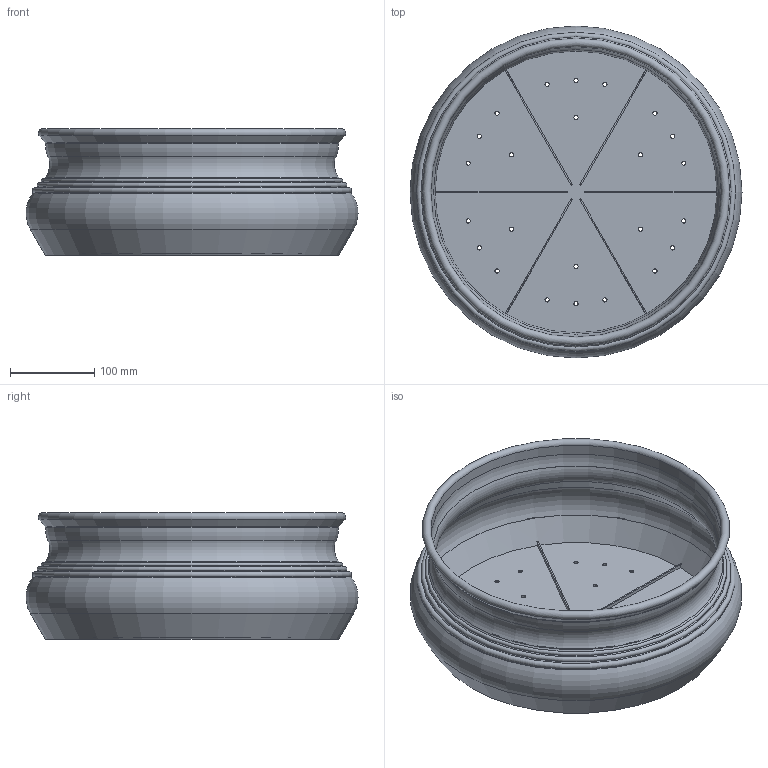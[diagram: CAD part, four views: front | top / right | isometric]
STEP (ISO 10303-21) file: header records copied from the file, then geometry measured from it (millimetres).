
FILE_DESCRIPTION(/* description */ (''),/* implementation_level */ '2;1');
FILE_NAME(/* name */ 'LR2406-S17-H150-D400_step.step',/* time_stamp */ '2024-02-01T11:04:09+01:00',/* author */ (''),/* organization */ (''),/* preprocessor_version */ 'ST-DEVELOPER v20',/* originating_system */ 'Autodesk Translation Framework v12.20.1.177',/* authorisation */ '');
FILE_SCHEMA (('AUTOMOTIVE_DESIGN { 1 0 10303 214 3 1 1 }'));
Length unit declared in the file: millimetre
Products named in the file (1): LR2406-S17-H150-D400
Bounding box: 394.71 x 394.71 x 150 mm (x, y, z)
Volume: 656642.8 mm3; surface area: 590012.4 mm2
Topology: 1 solids, 1 shells, 70 faces, 185 edges, 117 vertices
Faces by surface type: cylinder 32, plane 20, torus 10, cone 8
Full cylindrical faces by diameter (mm): 5 x24, 345.36 x1, 348.72 x1
Entity records: 2336 total; most frequent: DIRECTION 430, CARTESIAN_POINT 373, ORIENTED_EDGE 370, EDGE_CURVE 185, AXIS2_PLACEMENT_3D 174, EDGE_LOOP 118, VERTEX_POINT 117, CIRCLE 103
